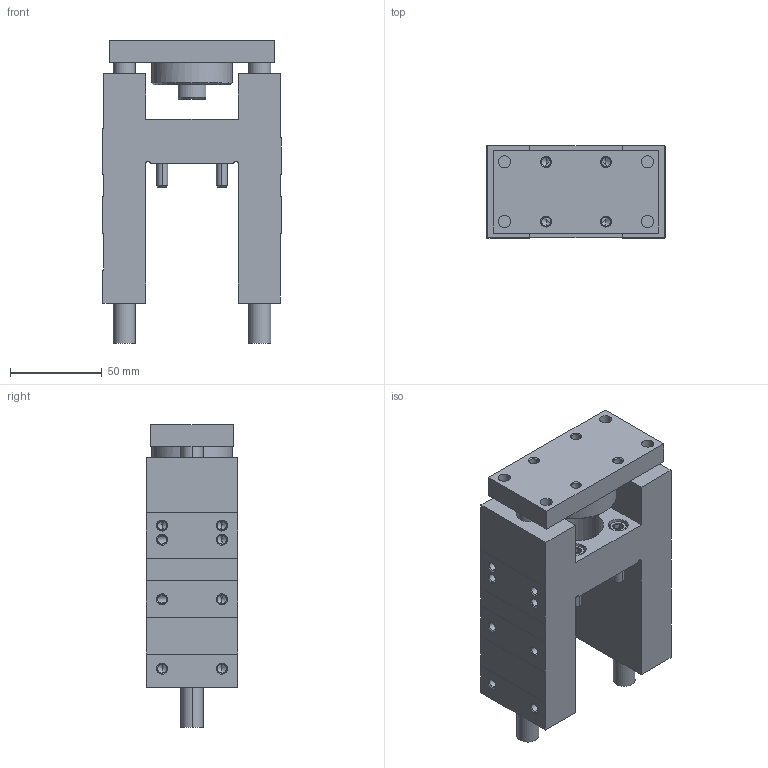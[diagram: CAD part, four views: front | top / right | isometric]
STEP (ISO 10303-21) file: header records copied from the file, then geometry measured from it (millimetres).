
FILE_DESCRIPTION (( 'STEP AP203' ), '1' );
FILE_NAME ('GB32-10.STEP', '2020-04-24T11:05:44', ( '' ), ( '' ), 'SwSTEP 2.0', 'SolidWorks 2019', '' );
FILE_SCHEMA (( 'CONFIG_CONTROL_DESIGN' ));
Length unit declared in the file: millimetre
Products named in the file (1): GB32-10
Bounding box: 97 x 50 x 165 mm (x, y, z)
Volume: 396198.3 mm3; surface area: 93110.4 mm2
Topology: 6 solids, 6 shells, 377 faces, 862 edges, 494 vertices
Faces by surface type: cone 154, plane 117, cylinder 106
Entity records: 11155 total; most frequent: CARTESIAN_POINT 2540, DIRECTION 1916, ORIENTED_EDGE 1660, EDGE_CURVE 830, AXIS2_PLACEMENT_3D 756, VERTEX_POINT 494, EDGE_LOOP 444, VECTOR 404
